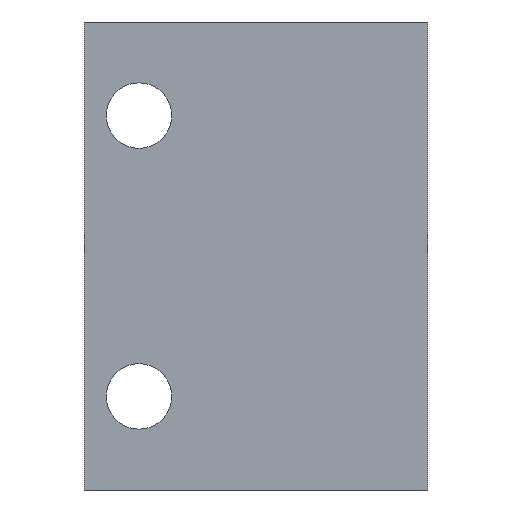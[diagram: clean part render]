
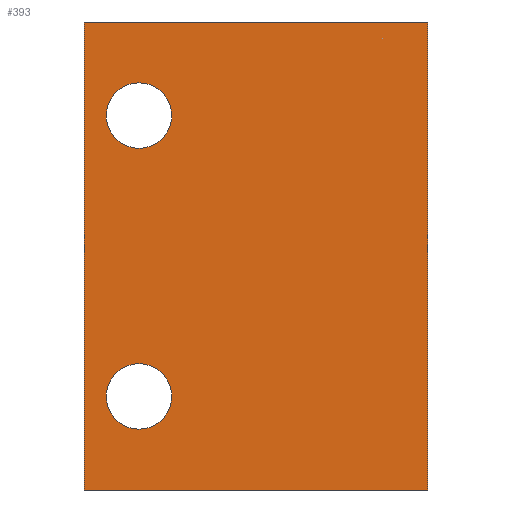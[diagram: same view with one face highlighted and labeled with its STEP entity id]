
A CAD part, left-side view. The second image highlights one B-rep face of the part: STEP entity #393.
In plain terms, the highlighted planar face has unit normal (-1, 0, 0).
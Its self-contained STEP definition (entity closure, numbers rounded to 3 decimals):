
#69 = CARTESIAN_POINT ( 'NONE',  ( 0., 18.5, 6. ) ) ;
#70 = CARTESIAN_POINT ( 'NONE',  ( 0., 0., 30. ) ) ;
#71 = DIRECTION ( 'NONE',  ( 0., 0., -1. ) ) ;
#76 = CARTESIAN_POINT ( 'NONE',  ( 0., 22., 30. ) ) ;
#78 = VERTEX_POINT ( 'NONE', #76 ) ;
#79 = VERTEX_POINT ( 'NONE', #382 ) ;
#85 = VERTEX_POINT ( 'NONE', #384 ) ;
#87 = VERTEX_POINT ( 'NONE', #284 ) ;
#88 = VERTEX_POINT ( 'NONE', #280 ) ;
#96 = EDGE_CURVE ( 'NONE', #378, #88, #263, .T. ) ;
#97 = EDGE_CURVE ( 'NONE', #87, #85, #287, .T. ) ;
#103 = EDGE_CURVE ( 'NONE', #79, #88, #207, .T. ) ;
#104 = EDGE_CURVE ( 'NONE', #386, #380, #214, .T. ) ;
#107 = EDGE_CURVE ( 'NONE', #85, #87, #219, .T. ) ;
#108 = EDGE_CURVE ( 'NONE', #78, #79, #209, .T. ) ;
#112 = EDGE_CURVE ( 'NONE', #78, #378, #224, .T. ) ;
#114 = DIRECTION ( 'NONE',  ( 0., 0., 1. ) ) ;
#115 = CARTESIAN_POINT ( 'NONE',  ( 0., 22., 0. ) ) ;
#123 = DIRECTION ( 'NONE',  ( 0., -1., 0. ) ) ;
#126 = DIRECTION ( 'NONE',  ( 0., 0., 1. ) ) ;
#127 = DIRECTION ( 'NONE',  ( -1., 0., 0. ) ) ;
#129 = CARTESIAN_POINT ( 'NONE',  ( 0., 18.5, 24. ) ) ;
#142 = FACE_BOUND ( 'NONE', #303, .T. ) ;
#147 = FACE_BOUND ( 'NONE', #295, .T. ) ;
#149 = FACE_OUTER_BOUND ( 'NONE', #286, .T. ) ;
#205 = VECTOR ( 'NONE', #71, 1000. ) ;
#207 = LINE ( 'NONE', #70, #205 ) ;
#209 = LINE ( 'NONE', #409, #211 ) ;
#211 = VECTOR ( 'NONE', #410, 1000. ) ;
#214 = CIRCLE ( 'NONE', #337, 2.1 ) ;
#219 = CIRCLE ( 'NONE', #368, 2.1 ) ;
#224 = LINE ( 'NONE', #418, #225 ) ;
#225 = VECTOR ( 'NONE', #419, 1000. ) ;
#229 = CIRCLE ( 'NONE', #341, 2.1 ) ;
#242 = ORIENTED_EDGE ( 'NONE', *, *, #108, .F. ) ;
#263 = LINE ( 'NONE', #115, #271 ) ;
#271 = VECTOR ( 'NONE', #123, 1000. ) ;
#280 = CARTESIAN_POINT ( 'NONE',  ( 0., 0., 0. ) ) ;
#281 = DIRECTION ( 'NONE',  ( -1., 0., 0. ) ) ;
#284 = CARTESIAN_POINT ( 'NONE',  ( 0., 18.5, 26.1 ) ) ;
#286 = EDGE_LOOP ( 'NONE', ( #313, #312, #242, #311 ) ) ;
#287 = CIRCLE ( 'NONE', #331, 2.1 ) ;
#295 = EDGE_LOOP ( 'NONE', ( #315, #314 ) ) ;
#303 = EDGE_LOOP ( 'NONE', ( #316, #374 ) ) ;
#311 = ORIENTED_EDGE ( 'NONE', *, *, #112, .T. ) ;
#312 = ORIENTED_EDGE ( 'NONE', *, *, #103, .F. ) ;
#313 = ORIENTED_EDGE ( 'NONE', *, *, #96, .T. ) ;
#314 = ORIENTED_EDGE ( 'NONE', *, *, #107, .F. ) ;
#315 = ORIENTED_EDGE ( 'NONE', *, *, #97, .F. ) ;
#316 = ORIENTED_EDGE ( 'NONE', *, *, #333, .F. ) ;
#331 = AXIS2_PLACEMENT_3D ( 'NONE', #129, #127, #126 ) ;
#333 = EDGE_CURVE ( 'NONE', #380, #386, #229, .T. ) ;
#337 = AXIS2_PLACEMENT_3D ( 'NONE', #69, #281, #114 ) ;
#341 = AXIS2_PLACEMENT_3D ( 'NONE', #406, #422, #423 ) ;
#344 = AXIS2_PLACEMENT_3D ( 'NONE', #460, #462, #463 ) ;
#368 = AXIS2_PLACEMENT_3D ( 'NONE', #404, #407, #408 ) ;
#374 = ORIENTED_EDGE ( 'NONE', *, *, #104, .F. ) ;
#378 = VERTEX_POINT ( 'NONE', #448 ) ;
#380 = VERTEX_POINT ( 'NONE', #449 ) ;
#382 = CARTESIAN_POINT ( 'NONE',  ( 0., 0., 30. ) ) ;
#384 = CARTESIAN_POINT ( 'NONE',  ( 0., 18.5, 21.9 ) ) ;
#386 = VERTEX_POINT ( 'NONE', #443 ) ;
#393 = ADVANCED_FACE ( 'NONE', ( #142, #147, #149 ), #461, .F. ) ;
#404 = CARTESIAN_POINT ( 'NONE',  ( 0., 18.5, 24. ) ) ;
#406 = CARTESIAN_POINT ( 'NONE',  ( 0., 18.5, 6. ) ) ;
#407 = DIRECTION ( 'NONE',  ( -1., 0., 0. ) ) ;
#408 = DIRECTION ( 'NONE',  ( 0., 0., 1. ) ) ;
#409 = CARTESIAN_POINT ( 'NONE',  ( 0., 22., 30. ) ) ;
#410 = DIRECTION ( 'NONE',  ( 0., -1., 0. ) ) ;
#418 = CARTESIAN_POINT ( 'NONE',  ( 0., 22., 30. ) ) ;
#419 = DIRECTION ( 'NONE',  ( 0., 0., -1. ) ) ;
#422 = DIRECTION ( 'NONE',  ( -1., 0., 0. ) ) ;
#423 = DIRECTION ( 'NONE',  ( 0., 0., 1. ) ) ;
#443 = CARTESIAN_POINT ( 'NONE',  ( 0., 18.5, 3.9 ) ) ;
#448 = CARTESIAN_POINT ( 'NONE',  ( 0., 22., 0. ) ) ;
#449 = CARTESIAN_POINT ( 'NONE',  ( 0., 18.5, 8.1 ) ) ;
#460 = CARTESIAN_POINT ( 'NONE',  ( 0., 22., 30. ) ) ;
#461 = PLANE ( 'NONE',  #344 ) ;
#462 = DIRECTION ( 'NONE',  ( 1., 0., 0. ) ) ;
#463 = DIRECTION ( 'NONE',  ( 0., 1., 0. ) ) ;
